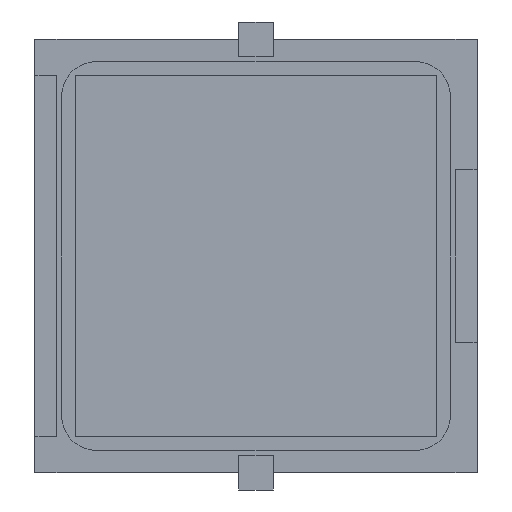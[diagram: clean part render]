
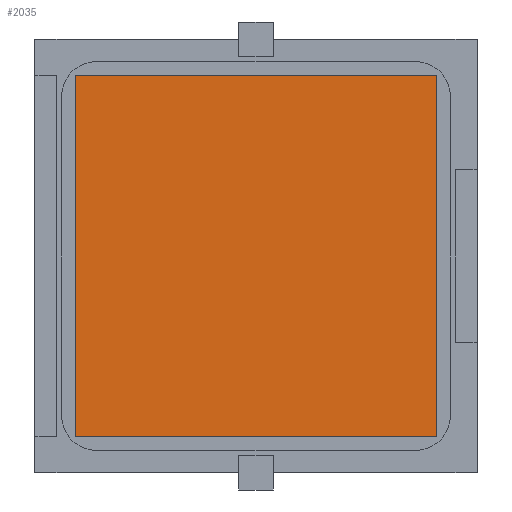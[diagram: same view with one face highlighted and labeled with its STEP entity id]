
A CAD part, front view. The second image highlights one B-rep face of the part: STEP entity #2035.
In plain terms, the highlighted planar face has unit normal (0, -1, 0).
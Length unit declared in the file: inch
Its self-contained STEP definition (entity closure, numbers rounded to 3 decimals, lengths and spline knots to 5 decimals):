
#29 = VERTEX_POINT ( 'NONE', #4228 ) ;
#132 = CARTESIAN_POINT ( 'NONE',  ( 0.41339, -0.005, 0.41339 ) ) ;
#267 = FACE_OUTER_BOUND ( 'NONE', #5319, .T. ) ;
#317 = DIRECTION ( 'NONE',  ( 0., 0., -1. ) ) ;
#644 = CARTESIAN_POINT ( 'NONE',  ( -0.41339, -0.005, -0.41339 ) ) ;
#692 = DIRECTION ( 'NONE',  ( 0., 1., 0. ) ) ;
#774 = CARTESIAN_POINT ( 'NONE',  ( -0.41339, -0.005, -0.41339 ) ) ;
#992 = DIRECTION ( 'NONE',  ( -1., 0., 0. ) ) ;
#1193 = DIRECTION ( 'NONE',  ( 1., 0., 0. ) ) ;
#1243 = CARTESIAN_POINT ( 'NONE',  ( -0.41339, -0.005, 0.41339 ) ) ;
#1731 = DIRECTION ( 'NONE',  ( 0., 0., 1. ) ) ;
#1854 = ORIENTED_EDGE ( 'NONE', *, *, #5497, .F. ) ;
#2011 = ORIENTED_EDGE ( 'NONE', *, *, #2463, .F. ) ;
#2035 = ADVANCED_FACE ( 'NONE', ( #267 ), #5403, .F. ) ;
#2150 = EDGE_CURVE ( 'NONE', #2908, #2947, #4170, .T. ) ;
#2207 = CARTESIAN_POINT ( 'NONE',  ( 0.41339, -0.005, -0.41339 ) ) ;
#2212 = DIRECTION ( 'NONE',  ( 0., 0., 1. ) ) ;
#2463 = EDGE_CURVE ( 'NONE', #2947, #4468, #5145, .T. ) ;
#2798 = ORIENTED_EDGE ( 'NONE', *, *, #2150, .F. ) ;
#2908 = VERTEX_POINT ( 'NONE', #3963 ) ;
#2947 = VERTEX_POINT ( 'NONE', #132 ) ;
#3079 = VECTOR ( 'NONE', #1731, 39.37008 ) ;
#3957 = VECTOR ( 'NONE', #317, 39.37008 ) ;
#3963 = CARTESIAN_POINT ( 'NONE',  ( -0.41339, -0.005, 0.41339 ) ) ;
#4170 = LINE ( 'NONE', #5973, #5740 ) ;
#4228 = CARTESIAN_POINT ( 'NONE',  ( -0.41339, -0.005, -0.41339 ) ) ;
#4351 = AXIS2_PLACEMENT_3D ( 'NONE', #1243, #692, #2212 ) ;
#4468 = VERTEX_POINT ( 'NONE', #5637 ) ;
#5061 = LINE ( 'NONE', #774, #3079 ) ;
#5145 = LINE ( 'NONE', #2207, #3957 ) ;
#5255 = EDGE_CURVE ( 'NONE', #29, #2908, #5061, .T. ) ;
#5293 = LINE ( 'NONE', #644, #5376 ) ;
#5319 = EDGE_LOOP ( 'NONE', ( #5901, #1854, #2011, #2798 ) ) ;
#5376 = VECTOR ( 'NONE', #992, 39.37008 ) ;
#5403 = PLANE ( 'NONE',  #4351 ) ;
#5497 = EDGE_CURVE ( 'NONE', #4468, #29, #5293, .T. ) ;
#5637 = CARTESIAN_POINT ( 'NONE',  ( 0.41339, -0.005, -0.41339 ) ) ;
#5740 = VECTOR ( 'NONE', #1193, 39.37008 ) ;
#5901 = ORIENTED_EDGE ( 'NONE', *, *, #5255, .F. ) ;
#5973 = CARTESIAN_POINT ( 'NONE',  ( -0.41339, -0.005, 0.41339 ) ) ;
